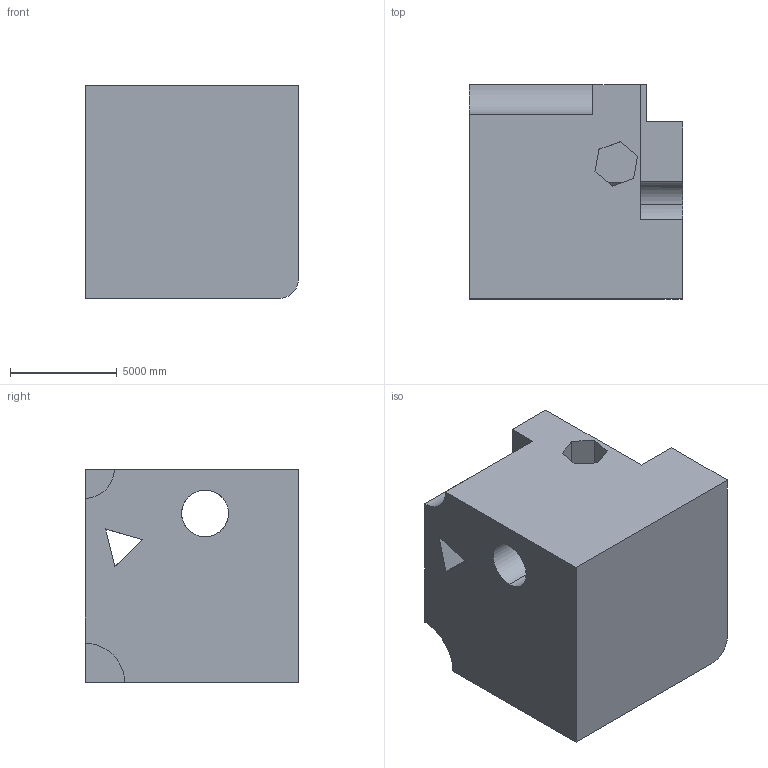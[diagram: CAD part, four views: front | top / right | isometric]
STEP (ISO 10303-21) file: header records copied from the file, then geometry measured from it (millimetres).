
FILE_DESCRIPTION (( 'STEP AP203' ), '1' );
FILE_NAME ('1966.STEP', '2022-08-23T10:03:46', ( 'user' ), ( '' ), 'SwSTEP 2.0', 'SolidWorks 2021', '' );
FILE_SCHEMA (( 'CONFIG_CONTROL_DESIGN' ));
Length unit declared in the file: centimetre
Products named in the file (1): 1966
Bounding box: 10000 x 10000 x 10000 mm (x, y, z)
Volume: 845452114105.4 mm3; surface area: 746737695.5 mm2
Topology: 1 solids, 1 shells, 38 faces, 111 edges, 74 vertices
Faces by surface type: plane 31, cylinder 7
Entity records: 1340 total; most frequent: CARTESIAN_POINT 230, ORIENTED_EDGE 222, DIRECTION 203, EDGE_CURVE 111, VECTOR 93, LINE 93, VERTEX_POINT 74, AXIS2_PLACEMENT_3D 55
